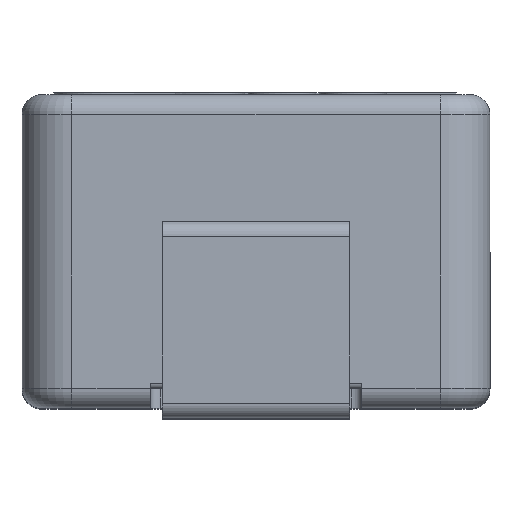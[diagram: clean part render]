
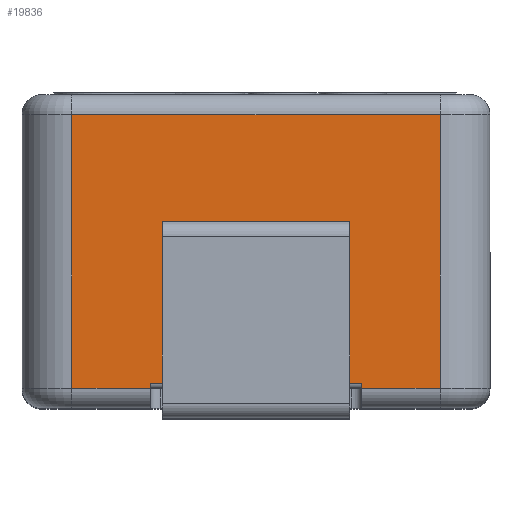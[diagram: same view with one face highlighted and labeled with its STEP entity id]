
A CAD part, top view. The second image highlights one B-rep face of the part: STEP entity #19836.
In plain terms, the highlighted planar face has unit normal (0, 0, 1) as drawn and (-1, 0, 0) by its records, which use the part's own axes.
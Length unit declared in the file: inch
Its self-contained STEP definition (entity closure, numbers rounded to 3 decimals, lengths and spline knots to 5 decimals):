
#178 = CARTESIAN_POINT ( 'NONE',  ( -0.155, -0.06875, 0.1175 ) ) ;
#218 = EDGE_CURVE ( 'NONE', #3922, #12410, #1286, .T. ) ;
#360 = VECTOR ( 'NONE', #14554, 39.37008 ) ;
#728 = CARTESIAN_POINT ( 'NONE',  ( -0.155, 0.07875, -0.0925 ) ) ;
#852 = LINE ( 'NONE', #11645, #19495 ) ;
#1076 = EDGE_CURVE ( 'NONE', #3922, #7770, #15619, .T. ) ;
#1286 = LINE ( 'NONE', #10153, #6319 ) ;
#1561 = CARTESIAN_POINT ( 'NONE',  ( -0.155, 0.015, -0.047 ) ) ;
#1587 = EDGE_CURVE ( 'NONE', #5056, #19720, #11525, .T. ) ;
#2653 = LINE ( 'NONE', #18246, #8978 ) ;
#3202 = CARTESIAN_POINT ( 'NONE',  ( -0.155, -0.06875, -0.0925 ) ) ;
#3566 = ORIENTED_EDGE ( 'NONE', *, *, #5942, .T. ) ;
#3601 = DIRECTION ( 'NONE',  ( 0., -1., 0. ) ) ;
#3794 = PLANE ( 'NONE',  #8925 ) ;
#3918 = EDGE_CURVE ( 'NONE', #11907, #13343, #2653, .T. ) ;
#3922 = VERTEX_POINT ( 'NONE', #17007 ) ;
#4030 = ORIENTED_EDGE ( 'NONE', *, *, #8064, .T. ) ;
#4468 = VERTEX_POINT ( 'NONE', #19416 ) ;
#4594 = ORIENTED_EDGE ( 'NONE', *, *, #1076, .T. ) ;
#4654 = LINE ( 'NONE', #17089, #15335 ) ;
#4755 = CARTESIAN_POINT ( 'NONE',  ( -0.155, 0.06875, -0.0925 ) ) ;
#5056 = VERTEX_POINT ( 'NONE', #4755 ) ;
#5138 = CARTESIAN_POINT ( 'NONE',  ( -0.155, -0.0025, 0.1175 ) ) ;
#5177 = EDGE_CURVE ( 'NONE', #19720, #19109, #4654, .T. ) ;
#5181 = EDGE_CURVE ( 'NONE', #16470, #4468, #12729, .T. ) ;
#5318 = LINE ( 'NONE', #11550, #9990 ) ;
#5646 = VECTOR ( 'NONE', #14435, 39.37008 ) ;
#5688 = EDGE_CURVE ( 'NONE', #7770, #17853, #16144, .T. ) ;
#5942 = EDGE_CURVE ( 'NONE', #13343, #16470, #852, .T. ) ;
#6065 = VECTOR ( 'NONE', #10147, 39.37008 ) ;
#6319 = VECTOR ( 'NONE', #14841, 39.37008 ) ;
#6742 = FACE_OUTER_BOUND ( 'NONE', #8917, .T. ) ;
#7262 = VECTOR ( 'NONE', #17737, 39.37008 ) ;
#7770 = VERTEX_POINT ( 'NONE', #19223 ) ;
#7788 = EDGE_CURVE ( 'NONE', #4468, #16960, #16278, .T. ) ;
#8064 = EDGE_CURVE ( 'NONE', #19109, #11907, #5318, .T. ) ;
#8599 = FACE_BOUND ( 'NONE', #15381, .T. ) ;
#8917 = EDGE_LOOP ( 'NONE', ( #12494, #4030, #11463, #3566, #16369, #19432, #11143, #16853 ) ) ;
#8925 = AXIS2_PLACEMENT_3D ( 'NONE', #10015, #16426, #14813 ) ;
#8945 = CARTESIAN_POINT ( 'NONE',  ( -0.155, 0.06875, 0.1175 ) ) ;
#8978 = VECTOR ( 'NONE', #9279, 39.37008 ) ;
#9279 = DIRECTION ( 'NONE',  ( 0., 0., 1. ) ) ;
#9813 = ORIENTED_EDGE ( 'NONE', *, *, #218, .F. ) ;
#9945 = CARTESIAN_POINT ( 'NONE',  ( -0.155, 0., 0.047 ) ) ;
#9990 = VECTOR ( 'NONE', #11342, 39.37008 ) ;
#10015 = CARTESIAN_POINT ( 'NONE',  ( -0.155, 0.07875, 0.1175 ) ) ;
#10147 = DIRECTION ( 'NONE',  ( 0., -1., 0. ) ) ;
#10153 = CARTESIAN_POINT ( 'NONE',  ( -0.155, 0., -0.047 ) ) ;
#10460 = DIRECTION ( 'NONE',  ( 0., 0., -1. ) ) ;
#10829 = CARTESIAN_POINT ( 'NONE',  ( -0.155, -0.06625, 0.053 ) ) ;
#10877 = VECTOR ( 'NONE', #13994, 39.37008 ) ;
#11143 = ORIENTED_EDGE ( 'NONE', *, *, #13017, .T. ) ;
#11342 = DIRECTION ( 'NONE',  ( 0., 1., 0. ) ) ;
#11463 = ORIENTED_EDGE ( 'NONE', *, *, #3918, .T. ) ;
#11525 = LINE ( 'NONE', #728, #7262 ) ;
#11550 = CARTESIAN_POINT ( 'NONE',  ( -0.155, 0.07875, -0.053 ) ) ;
#11645 = CARTESIAN_POINT ( 'NONE',  ( -0.155, 0.07875, 0.053 ) ) ;
#11907 = VERTEX_POINT ( 'NONE', #13736 ) ;
#12410 = VERTEX_POINT ( 'NONE', #16497 ) ;
#12494 = ORIENTED_EDGE ( 'NONE', *, *, #5177, .T. ) ;
#12711 = VECTOR ( 'NONE', #10460, 39.37008 ) ;
#12729 = LINE ( 'NONE', #178, #360 ) ;
#12800 = LINE ( 'NONE', #5138, #5646 ) ;
#12977 = ORIENTED_EDGE ( 'NONE', *, *, #5688, .T. ) ;
#13017 = EDGE_CURVE ( 'NONE', #16960, #5056, #13631, .T. ) ;
#13026 = CARTESIAN_POINT ( 'NONE',  ( -0.155, -0.06875, -0.053 ) ) ;
#13124 = CARTESIAN_POINT ( 'NONE',  ( -0.155, 0.06875, 0.0925 ) ) ;
#13343 = VERTEX_POINT ( 'NONE', #10829 ) ;
#13631 = LINE ( 'NONE', #8945, #12711 ) ;
#13736 = CARTESIAN_POINT ( 'NONE',  ( -0.155, -0.06625, -0.053 ) ) ;
#13994 = DIRECTION ( 'NONE',  ( 0., 0., 1. ) ) ;
#14435 = DIRECTION ( 'NONE',  ( 0., 0., -1. ) ) ;
#14554 = DIRECTION ( 'NONE',  ( 0., 0., 1. ) ) ;
#14813 = DIRECTION ( 'NONE',  ( 0., 1., 0. ) ) ;
#14841 = DIRECTION ( 'NONE',  ( 0., -1., 0. ) ) ;
#15335 = VECTOR ( 'NONE', #15582, 39.37008 ) ;
#15381 = EDGE_LOOP ( 'NONE', ( #12977, #15743, #9813, #4594 ) ) ;
#15568 = CARTESIAN_POINT ( 'NONE',  ( -0.155, -0.0025, 0.047 ) ) ;
#15582 = DIRECTION ( 'NONE',  ( 0., 0., 1. ) ) ;
#15619 = LINE ( 'NONE', #1561, #10877 ) ;
#15743 = ORIENTED_EDGE ( 'NONE', *, *, #18423, .T. ) ;
#16144 = LINE ( 'NONE', #9945, #6065 ) ;
#16278 = LINE ( 'NONE', #13124, #17469 ) ;
#16369 = ORIENTED_EDGE ( 'NONE', *, *, #5181, .T. ) ;
#16422 = CARTESIAN_POINT ( 'NONE',  ( -0.155, 0.06875, 0.0925 ) ) ;
#16426 = DIRECTION ( 'NONE',  ( 1., 0., 0. ) ) ;
#16470 = VERTEX_POINT ( 'NONE', #16586 ) ;
#16497 = CARTESIAN_POINT ( 'NONE',  ( -0.155, -0.0025, -0.047 ) ) ;
#16586 = CARTESIAN_POINT ( 'NONE',  ( -0.155, -0.06875, 0.053 ) ) ;
#16853 = ORIENTED_EDGE ( 'NONE', *, *, #1587, .T. ) ;
#16960 = VERTEX_POINT ( 'NONE', #16422 ) ;
#17007 = CARTESIAN_POINT ( 'NONE',  ( -0.155, 0.015, -0.047 ) ) ;
#17089 = CARTESIAN_POINT ( 'NONE',  ( -0.155, -0.06875, 0.1175 ) ) ;
#17469 = VECTOR ( 'NONE', #17813, 39.37008 ) ;
#17737 = DIRECTION ( 'NONE',  ( 0., -1., 0. ) ) ;
#17813 = DIRECTION ( 'NONE',  ( 0., 1., 0. ) ) ;
#17853 = VERTEX_POINT ( 'NONE', #15568 ) ;
#18246 = CARTESIAN_POINT ( 'NONE',  ( -0.155, -0.06625, 0.053 ) ) ;
#18423 = EDGE_CURVE ( 'NONE', #17853, #12410, #12800, .T. ) ;
#19109 = VERTEX_POINT ( 'NONE', #13026 ) ;
#19223 = CARTESIAN_POINT ( 'NONE',  ( -0.155, 0.015, 0.047 ) ) ;
#19416 = CARTESIAN_POINT ( 'NONE',  ( -0.155, -0.06875, 0.0925 ) ) ;
#19432 = ORIENTED_EDGE ( 'NONE', *, *, #7788, .T. ) ;
#19495 = VECTOR ( 'NONE', #3601, 39.37008 ) ;
#19720 = VERTEX_POINT ( 'NONE', #3202 ) ;
#19836 = ADVANCED_FACE ( 'NONE', ( #6742, #8599 ), #3794, .F. ) ;
